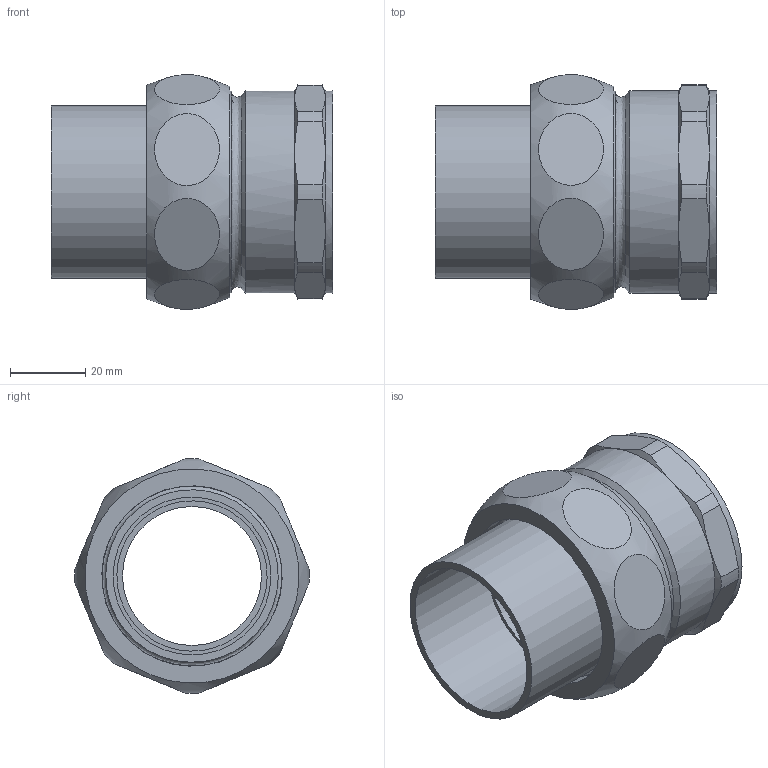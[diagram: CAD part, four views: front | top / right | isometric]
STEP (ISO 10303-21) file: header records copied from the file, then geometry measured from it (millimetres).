
FILE_DESCRIPTION((''),'2;1');
FILE_NAME('G:\Engineering\Public\RYSUNKI\SANHA POLSKA\4330g\step\14330g_42-112(1).stp','2013-09-16T09:33:51',('haldrzynski'),(''),'Autodesk Inventor 2009','Autodesk Inventor 2009','');
FILE_SCHEMA(('AUTOMOTIVE_DESIGN { 1 0 10303 214 1 1 1 1 }'));
Length unit declared in the file: millimetre
Products named in the file (5): 14330g_42-112(1); 14370g-112_134(3); 14372_42-134(2); 14374_134(2); 1DCU134
Assembly tree (4 placements, depth 2):
  14330g_42-112(1)
    14370g-112_134(3)
    14372_42-134(2)
    14374_134(2)
    1DCU134
Bounding box: 75 x 62.51 x 62.51 mm (x, y, z)
Volume: 63592 mm3; surface area: 36754.4 mm2
Topology: 4 solids, 4 shells, 74 faces, 146 edges, 92 vertices
Faces by surface type: plane 29, cylinder 22, cone 20, bspline 3
Full cylindrical faces by diameter (mm): 37 x1, 40 x2, 42 x1, 44.845 x1, 45.9 x1, 48 x1, 48.2 x1, 50 x1, 50.5 x1, 50.788 x1, 53.746 x1, 54 x2
Entity records: 3413 total; most frequent: CARTESIAN_POINT 1881, DIRECTION 306, ORIENTED_EDGE 242, AXIS2_PLACEMENT_3D 145, EDGE_CURVE 121, EDGE_LOOP 116, VERTEX_POINT 89, FACE_OUTER_BOUND 74
